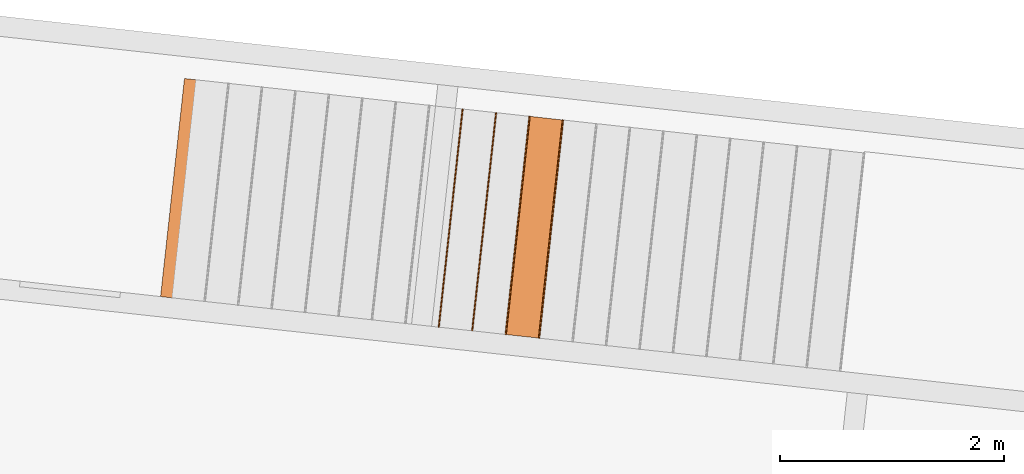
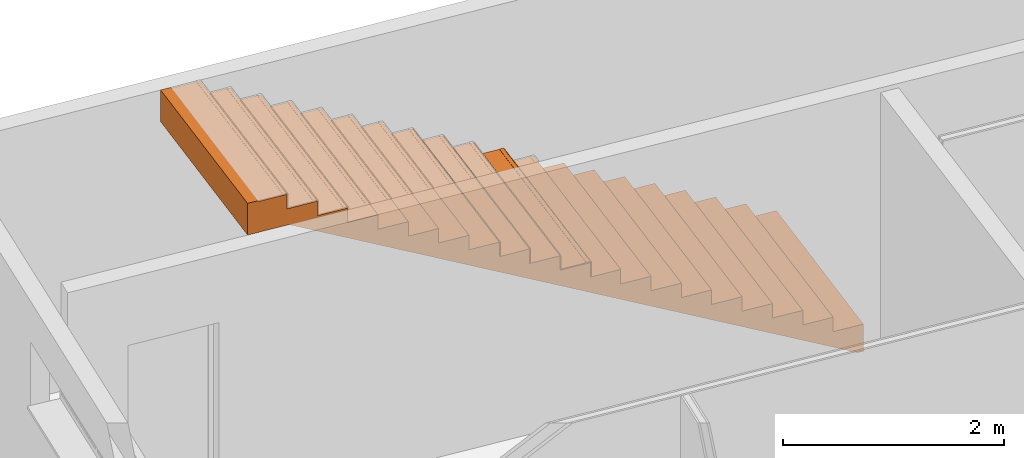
# One storey, part 75 of 79: 6 proxies, 1 element without a shape of its own.
"""IFC2X3 building model written with IfcOpenShell, lengths in metres."""

from ifc_helpers import new_model, entity, si_unit, converted_unit, derived_unit, money_unit, direction, frame, origin_with_axes, place, context, subcontext, project, spatial, faceted_brep, material, type_object, element, aggregate, save


model = new_model("IFC2X3")

# Units and contexts
model_context = context("Model", 3, precision=1e-05, world=origin_with_axes(), true_north=direction((0.0, 1.0)))
body_context = subcontext(model_context, "Body", "Model", "MODEL_VIEW")
ifc_project = project(units=[si_unit("LENGTHUNIT", "METRE"), si_unit("AREAUNIT", "SQUARE_METRE"), si_unit("VOLUMEUNIT", "CUBIC_METRE"), converted_unit("PLANEANGLEUNIT", "DEGREE", entity("IfcPlaneAngleMeasure", 0.0174532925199), si_unit("PLANEANGLEUNIT", "RADIAN"), dimensions=[0, 0, 0, 0, 0, 0, 0]), money_unit("CHF"), converted_unit("TIMEUNIT", "Year", entity("IfcTimeMeasure", 31556926.0), si_unit("TIMEUNIT", "SECOND"), dimensions=[0, 0, 1, 0, 0, 0, 0]), si_unit("MASSUNIT", "GRAM", prefix="KILO"), si_unit("THERMODYNAMICTEMPERATUREUNIT", "DEGREE_CELSIUS"), si_unit("LUMINOUSINTENSITYUNIT", "LUMEN"), si_unit("ENERGYUNIT", "JOULE", prefix="MEGA"), derived_unit("THERMALCONDUCTANCEUNIT", [(si_unit("POWERUNIT", "WATT"), 1), (si_unit("LENGTHUNIT", "METRE"), -1), (si_unit("THERMODYNAMICTEMPERATUREUNIT", "KELVIN"), -1)]), derived_unit("SPECIFICHEATCAPACITYUNIT", [(si_unit("ENERGYUNIT", "JOULE"), 1), (si_unit("MASSUNIT", "GRAM", prefix="KILO"), -1), (si_unit("THERMODYNAMICTEMPERATUREUNIT", "KELVIN"), -1)]), derived_unit("MASSDENSITYUNIT", [(si_unit("MASSUNIT", "GRAM", prefix="KILO"), 1), (si_unit("VOLUMEUNIT", "CUBIC_METRE"), -1)])], contexts=[model_context])

# Site, building, storey
site_placement = place(None, frame((0.0, 0.0, 0.0), z_axis=(0.0, 0.0, 1.0), x_axis=(-0.177771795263, -0.984071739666, 0.0)))
site = spatial("IfcSite", under=ifc_project, at=site_placement, Name="Site", CompositionType="ELEMENT")
building_placement = place(site_placement, origin_with_axes())
building = spatial("IfcBuilding", under=site, at=building_placement, Name="Bâtiment", CompositionType="ELEMENT")
storey_placement = place(building_placement, origin_with_axes())
storey = spatial("IfcBuildingStorey", under=building, at=storey_placement, Name="RDC", CompositionType="ELEMENT", Elevation=0.0)

# Proxies
building_element_proxy_type_1 = type_object("IfcBuildingElementProxyType", Name="Type d'escalier", PredefinedType="NOTDEFINED")
proxy_1_placement = place(storey_placement, origin_with_axes())
proxy_1 = element("IfcBuildingElementProxy", 1, at=proxy_1_placement, inside=storey, type_object=building_element_proxy_type_1, Name="ESC-001")
ifc_material_1 = material(Name="_BA banché")
building_element_proxy_type_2 = type_object("IfcBuildingElementProxyType", Name="IfcBuildingElementProxy", PredefinedType="NOTDEFINED")
proxy_2_placement = place(proxy_1_placement, frame((98.6612976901, -150.999113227, 0.0), z_axis=(0.0, 0.0, 1.0), x_axis=(-0.975946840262, -0.218008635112, 0.0)))
proxy_2 = element("IfcBuildingElementProxy", 2, at=proxy_2_placement, type_object=building_element_proxy_type_2, material=ifc_material_1, Name="VOLEE-002", context=body_context, shape_type="Brep", body=[
    faceted_brep([(1.79938320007, 5.50282550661, 3.19), (1.79938320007, 5.50282550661, 3.03), (1.7544993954, 5.20620210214, 3.03), (1.7544993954, 5.20620210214, 2.87), (1.7096155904, 4.90957869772, 2.87), (1.7096155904, 4.90957869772, 2.71), (1.66473178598, 4.61295529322, 2.71), (1.66473178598, 4.61295529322, 2.55), (1.61984798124, 4.31633188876, 2.55), (1.61984798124, 4.31633188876, 2.39), (1.57496417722, 4.01970848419, 2.39), (1.57496417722, 4.01970848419, 2.23), (1.53008037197, 3.72308507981, 2.23), (1.53008037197, 3.72308507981, 2.07), (1.48519656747, 3.42646167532, 2.07), (1.48519656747, 3.42646167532, 1.91), (1.44031276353, 3.12983827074, 1.91), (1.44031276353, 3.12983827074, 1.75), (1.39542895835, 2.83321486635, 1.75), (1.39542895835, 2.83321486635, 1.59), (1.35054515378, 2.53659146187, 1.59), (1.35054515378, 2.53659146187, 1.43), (1.30566134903, 2.23996805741, 1.43), (1.30566134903, 2.23996805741, 1.27), (1.26077754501, 1.94334465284, 1.27), (1.26077754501, 1.94334465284, 1.11), (1.21589373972, 1.64672124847, 1.11), (1.21589373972, 1.64672124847, 0.95), (1.17100993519, 1.35009784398, 0.95), (1.17100993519, 1.35009784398, 0.79), (1.12612613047, 1.05347443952, 0.79), (1.12612613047, 1.05347443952, 0.63), (1.08124232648, 0.756851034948, 0.63), (1.08124232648, 0.756851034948, 0.47), (1.03635852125, 0.460227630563, 0.47), (1.03635852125, 0.460227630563, 0.31), (0.991474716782, 0.163604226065, 0.31), (0.991474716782, 0.163604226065, 0.15), (0.946590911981, -0.133019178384, 0.15), (0.946590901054, -0.13301917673, -0.15), (0.955006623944, -0.0774022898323, -0.15), (0.956300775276, -0.0688496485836, -0.145386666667), (0.960041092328, -0.044131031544, -0.132053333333), (0.967521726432, 0.00530620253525, -0.105386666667), (0.975002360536, 0.0547434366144, -0.07872), (0.978742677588, 0.079462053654, -0.0653866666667), (0.989963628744, 0.153617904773, -0.0253866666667), (1.0011845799, 0.227773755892, 0.0146133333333), (1.00492489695, 0.252492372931, 0.0279466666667), (1.01240553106, 0.30192960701, 0.0546133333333), (1.01988616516, 0.35136684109, 0.08128), (1.02362648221, 0.376085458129, 0.0946133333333), (1.03484743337, 0.450241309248, 0.134613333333), (1.04606838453, 0.524397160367, 0.174613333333), (1.05728933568, 0.598553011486, 0.214613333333), (1.06851028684, 0.672708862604, 0.254613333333), (1.07973123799, 0.746864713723, 0.294613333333), (1.09095218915, 0.821020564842, 0.334613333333), (1.0946925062, 0.845739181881, 0.347946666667), (1.10217314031, 0.895176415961, 0.374613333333), (1.10965377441, 0.94461365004, 0.40128), (1.11339409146, 0.969332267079, 0.414613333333), (1.12461504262, 1.0434881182, 0.454613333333), (1.13583600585, 1.11764396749, 0.494613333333), (1.13957632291, 1.14236258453, 0.507946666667), (1.14705695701, 1.19179981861, 0.534613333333), (1.15453759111, 1.24123705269, 0.56128), (1.15827790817, 1.26595566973, 0.574613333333), (1.16949884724, 1.34011152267, 0.614613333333), (1.1807197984, 1.41426737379, 0.654613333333), (1.19194074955, 1.48842322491, 0.694613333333), (1.20316170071, 1.56257907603, 0.734613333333), (1.21438265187, 1.63673492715, 0.774613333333), (1.22560360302, 1.71089077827, 0.814613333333), (1.22934392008, 1.73560939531, 0.827946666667), (1.23682455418, 1.78504662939, 0.854613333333), (1.24430518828, 1.83448386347, 0.88128), (1.24804550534, 1.8592024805, 0.894613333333), (1.25926645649, 1.93335833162, 0.934613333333), (1.27048740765, 2.00751418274, 0.974613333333), (1.2742277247, 2.03223279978, 0.987946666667), (1.2817083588, 2.08167003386, 1.01461333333), (1.28918899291, 2.13110726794, 1.04128), (1.29292930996, 2.15582588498, 1.05461333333), (1.30415026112, 2.2299817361, 1.09461333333), (1.31537122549, 2.30413758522, 1.13461333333), (1.31911154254, 2.32885620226, 1.14794666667), (1.32659217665, 2.37829343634, 1.17461333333), (1.33407281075, 2.42773067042, 1.20128), (1.3378131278, 2.45244928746, 1.21461333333), (1.34903406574, 2.52660514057, 1.25461333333), (1.3602550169, 2.60076099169, 1.29461333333), (1.36399533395, 2.62547960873, 1.30794666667), (1.37147596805, 2.67491684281, 1.33461333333), (1.37895660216, 2.72435407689, 1.36128), (1.38269691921, 2.74907269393, 1.37461333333), (1.39391787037, 2.82322854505, 1.41461333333), (1.40513882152, 2.89738439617, 1.45461333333), (1.41635977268, 2.97154024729, 1.49461333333), (1.42758072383, 3.04569609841, 1.53461333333), (1.43880167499, 3.11985194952, 1.57461333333), (1.45002262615, 3.19400780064, 1.61461333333), (1.4612435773, 3.26816365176, 1.65461333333), (1.47246452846, 3.34231950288, 1.69461333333), (1.48368547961, 3.416475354, 1.73461333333), (1.49490644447, 3.49063120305, 1.77461333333), (1.50612739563, 3.56478705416, 1.81461333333), (1.51734834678, 3.63894290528, 1.85461333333), (1.52856928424, 3.71309875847, 1.89461333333), (1.53979023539, 3.78725460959, 1.93461333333), (1.55101118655, 3.86141046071, 1.97461333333), (1.56223213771, 3.93556631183, 2.01461333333), (1.57345308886, 4.00972216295, 2.05461333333), (1.58467404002, 4.08387801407, 2.09461333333), (1.58841435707, 4.10859663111, 2.10794666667), (1.59589499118, 4.15803386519, 2.13461333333), (1.60337562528, 4.20747109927, 2.16128), (1.60711594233, 4.23218971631, 2.17461333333), (1.61833689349, 4.30634556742, 2.21461333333), (1.62955785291, 4.38050141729, 2.25461333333), (1.64077880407, 4.45465726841, 2.29461333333), (1.65199975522, 4.52881311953, 2.33461333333), (1.66322069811, 4.6029689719, 2.37461333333), (1.67444164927, 4.67712482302, 2.41461333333), (1.67818196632, 4.70184344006, 2.42794666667), (1.68566260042, 4.75128067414, 2.45461333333), (1.69314323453, 4.80071790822, 2.48128), (1.69688355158, 4.82543652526, 2.49461333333), (1.70810450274, 4.89959237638, 2.53461333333), (1.71932545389, 4.97374822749, 2.57461333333), (1.73054640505, 5.04790407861, 2.61461333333), (1.74176735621, 5.12205992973, 2.65461333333), (1.75298830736, 5.19621578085, 2.69461333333), (1.76420925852, 5.27037163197, 2.73461333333), (1.76794957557, 5.29509024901, 2.74794666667), (1.77543020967, 5.34452748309, 2.77461333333), (1.78291084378, 5.39396471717, 2.80128), (1.78665116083, 5.41868333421, 2.81461333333), (1.79657796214, 5.48428654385, 2.85), (1.85771718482, 5.88833705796, 2.85), (1.85771718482, 5.88833705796, 3.2), (1.84275591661, 5.7894625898, 3.2), (1.84275591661, 5.7894625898, 3.19), (-0.134520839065, 5.79545572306, 3.19), (-0.134520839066, 5.79545572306, 3.03), (-0.179486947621, 5.49884477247, 3.03), (-0.179486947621, 5.49884477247, 2.87), (-0.224453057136, 5.20223382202, 2.87), (-0.224453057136, 5.20223382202, 2.71), (-0.269419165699, 4.90562287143, 2.71), (-0.269419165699, 4.90562287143, 2.55), (-0.314385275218, 4.60901192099, 2.55), (-0.314385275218, 4.60901192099, 2.39), (-0.359351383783, 4.3124009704, 2.39), (-0.359351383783, 4.3124009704, 2.23), (-0.404317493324, 4.01579001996, 2.23), (-0.404317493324, 4.01579001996, 2.07), (-0.44928360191, 3.71917906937, 2.07), (-0.44928360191, 3.71917906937, 1.91), (-0.494249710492, 3.42256811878, 1.91), (-0.494249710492, 3.42256811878, 1.75), (-0.539215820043, 3.12595716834, 1.75), (-0.539215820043, 3.12595716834, 1.59), (-0.584181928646, 2.82934621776, 1.59), (-0.584181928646, 2.82934621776, 1.43), (-0.629148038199, 2.53273526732, 1.43), (-0.629148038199, 2.53273526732, 1.27), (-0.674114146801, 2.23612431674, 1.27), (-0.674114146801, 2.23612431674, 1.11), (-0.719080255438, 1.93951336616, 1.11), (-0.719080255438, 1.93951336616, 0.95), (-0.764046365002, 1.64290241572, 0.95), (-0.764046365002, 1.64290241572, 0.79), (-0.809012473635, 1.34629146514, 0.79), (-0.809012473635, 1.34629146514, 0.63), (-0.853978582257, 1.04968051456, 0.63), (-0.853978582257, 1.04968051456, 0.47), (-0.89894469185, 0.753069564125, 0.47), (-0.89894469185, 0.753069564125, 0.31), (-0.943910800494, 0.456458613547, 0.31), (-0.943910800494, 0.456458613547, 0.15), (-0.98887691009, 0.159847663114, 0.15), (-0.988876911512, 0.159847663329, -0.15), (-0.980445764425, 0.215462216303, -0.15), (-0.97914924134, 0.224014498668, -0.145386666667), (-0.975402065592, 0.248732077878, -0.132053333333), (-0.967907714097, 0.298167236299, -0.105386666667), (-0.960413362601, 0.347602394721, -0.07872), (-0.956666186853, 0.372319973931, -0.0653866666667), (-0.945424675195, 0.446472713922, -0.0253866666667), (-0.934183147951, 0.520625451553, 0.0146133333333), (-0.930435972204, 0.545343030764, 0.0279466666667), (-0.922941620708, 0.594778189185, 0.0546133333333), (-0.915447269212, 0.644213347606, 0.08128), (-0.911700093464, 0.668930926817, 0.0946133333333), (-0.90045856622, 0.743083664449, 0.134613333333), (-0.889217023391, 0.817236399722, 0.174613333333), (-0.877975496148, 0.891389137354, 0.214613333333), (-0.866733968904, 0.965541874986, 0.254613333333), (-0.855492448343, 1.03969461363, 0.294613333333), (-0.844250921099, 1.11384735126, 0.334613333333), (-0.840503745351, 1.13856493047, 0.347946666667), (-0.833009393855, 1.18800008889, 0.374613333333), (-0.82551504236, 1.23743524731, 0.40128), (-0.821767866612, 1.26215282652, 0.414613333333), (-0.810526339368, 1.33630556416, 0.454613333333), (-0.799284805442, 1.41045830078, 0.494613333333), (-0.795537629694, 1.43517587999, 0.507946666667), (-0.788043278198, 1.48461103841, 0.534613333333), (-0.780548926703, 1.53404619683, 0.56128), (-0.776801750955, 1.55876377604, 0.574613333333), (-0.765560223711, 1.63291651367, 0.614613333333), (-0.754318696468, 1.7070692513, 0.654613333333), (-0.743077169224, 1.78122198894, 0.694613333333), (-0.73183564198, 1.85537472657, 0.734613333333), (-0.720594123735, 1.92952746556, 0.774613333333), (-0.709352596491, 2.00368020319, 0.814613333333), (-0.705605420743, 2.0283977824, 0.827946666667), (-0.698111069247, 2.07783294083, 0.854613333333), (-0.690616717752, 2.12726809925, 0.88128), (-0.686869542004, 2.15198567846, 0.894613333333), (-0.67562801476, 2.22613841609, 0.934613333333), (-0.664386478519, 2.30029115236, 0.974613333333), (-0.660639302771, 2.32500873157, 0.987946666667), (-0.653144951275, 2.37444388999, 1.01461333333), (-0.645650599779, 2.42387904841, 1.04128), (-0.641903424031, 2.44859662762, 1.05461333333), (-0.630661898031, 2.52274936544, 1.09461333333), (-0.619420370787, 2.59690210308, 1.13461333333), (-0.615673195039, 2.62161968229, 1.14794666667), (-0.608178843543, 2.67105484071, 1.17461333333), (-0.600684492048, 2.72048999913, 1.20128), (-0.5969373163, 2.74520757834, 1.21461333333), (-0.585695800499, 2.8193603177, 1.25461333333), (-0.574454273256, 2.89351305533, 1.29461333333), (-0.570707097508, 2.91823063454, 1.30794666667), (-0.563212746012, 2.96766579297, 1.33461333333), (-0.555718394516, 3.01710095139, 1.36128), (-0.551971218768, 3.0418185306, 1.37461333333), (-0.540729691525, 3.11597126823, 1.41461333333), (-0.529488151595, 3.19012400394, 1.45461333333), (-0.518246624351, 3.26427674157, 1.49461333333), (-0.507005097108, 3.33842947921, 1.53461333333), (-0.495763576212, 3.4125822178, 1.57461333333), (-0.484522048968, 3.48673495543, 1.61461333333), (-0.473280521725, 3.56088769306, 1.65461333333), (-0.462038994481, 3.63504043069, 1.69461333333), (-0.450797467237, 3.70919316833, 1.73461333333), (-0.439555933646, 3.783345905, 1.77461333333), (-0.428314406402, 3.85749864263, 1.81461333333), (-0.417072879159, 3.93165138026, 1.85461333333), (-0.4058313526, 4.005804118, 1.89461333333), (-0.394589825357, 4.07995685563, 1.93461333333), (-0.383348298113, 4.15410959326, 1.97461333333), (-0.372106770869, 4.22826233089, 2.01461333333), (-0.360865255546, 4.30241507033, 2.05461333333), (-0.349623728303, 4.37656780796, 2.09461333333), (-0.345876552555, 4.40128538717, 2.10794666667), (-0.338382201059, 4.45072054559, 2.13461333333), (-0.330887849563, 4.50015570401, 2.16128), (-0.327140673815, 4.52487328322, 2.17461333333), (-0.315899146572, 4.59902602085, 2.21461333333), (-0.304657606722, 4.67317875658, 2.25461333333), (-0.293416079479, 4.74733149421, 2.29461333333), (-0.282174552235, 4.82148423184, 2.33461333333), (-0.270933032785, 4.89563697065, 2.37461333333), (-0.259691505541, 4.96978970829, 2.41461333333), (-0.255944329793, 4.9945072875, 2.42794666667), (-0.248449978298, 5.04394244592, 2.45461333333), (-0.240955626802, 5.09337760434, 2.48128), (-0.237208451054, 5.11809518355, 2.49461333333), (-0.22596692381, 5.19224792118, 2.53461333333), (-0.214725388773, 5.26640065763, 2.57461333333), (-0.20348386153, 5.34055339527, 2.61461333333), (-0.192242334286, 5.4147061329, 2.65461333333), (-0.181000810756, 5.48885887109, 2.69461333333), (-0.169759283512, 5.56301160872, 2.73461333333), (-0.166012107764, 5.58772918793, 2.74794666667), (-0.158517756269, 5.63716434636, 2.77461333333), (-0.151023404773, 5.68659950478, 2.80128), (-0.147276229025, 5.71131708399, 2.81461333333), (-0.137331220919, 5.77691753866, 2.85), (-0.0910685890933, 6.08208077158, 2.85), (-0.0761073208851, 6.18095523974, 2.85), (-0.0761073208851, 6.18095523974, 3.2), (-0.0910685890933, 6.08208077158, 3.2), (-0.0910685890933, 6.08208077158, 3.19)], [[[0, 1, 2, 3, 4, 5, 6, 7, 8, 9, 10, 11, 12, 13, 14, 15, 16, 17, 18, 19, 20, 21, 22, 23, 24, 25, 26, 27, 28, 29, 30, 31, 32, 33, 34, 35, 36, 37, 38, 39, 40, 41, 42, 43, 44, 45, 46, 47, 48, 49, 50, 51, 52, 53, 54, 55, 56, 57, 58, 59, 60, 61, 62, 63, 64, 65, 66, 67, 68, 69, 70, 71, 72, 73, 74, 75, 76, 77, 78, 79, 80, 81, 82, 83, 84, 85, 86, 87, 88, 89, 90, 91, 92, 93, 94, 95, 96, 97, 98, 99, 100, 101, 102, 103, 104, 105, 106, 107, 108, 109, 110, 111, 112, 113, 114, 115, 116, 117, 118, 119, 120, 121, 122, 123, 124, 125, 126, 127, 128, 129, 130, 131, 132, 133, 134, 135, 136, 137, 138, 139, 140, 141, 142]], [[143, 144, 1, 0]], [[1, 144, 145, 2]], [[2, 145, 146, 3]], [[3, 146, 147, 4]], [[4, 147, 148, 5]], [[5, 148, 149, 6]], [[6, 149, 150, 7]], [[7, 150, 151, 8]], [[8, 151, 152, 9]], [[9, 152, 153, 10]], [[10, 153, 154, 11]], [[11, 154, 155, 12]], [[12, 155, 156, 13]], [[13, 156, 157, 14]], [[14, 157, 158, 15]], [[15, 158, 159, 16]], [[16, 159, 160, 17]], [[17, 160, 161, 18]], [[18, 161, 162, 19]], [[19, 162, 163, 20]], [[20, 163, 164, 21]], [[21, 164, 165, 22]], [[22, 165, 166, 23]], [[23, 166, 167, 24]], [[24, 167, 168, 25]], [[25, 168, 169, 26]], [[26, 169, 170, 27]], [[27, 170, 171, 28]], [[28, 171, 172, 29]], [[29, 172, 173, 30]], [[30, 173, 174, 31]], [[31, 174, 175, 32]], [[32, 175, 176, 33]], [[33, 176, 177, 34]], [[34, 177, 178, 35]], [[35, 178, 179, 36]], [[36, 179, 180, 37]], [[37, 180, 181, 38]], [[38, 181, 182, 39]], [[183, 40, 39, 182]], [[184, 41, 40, 183]], [[185, 42, 41, 184]], [[186, 43, 42, 185]], [[187, 44, 43, 186]], [[188, 45, 44, 187]], [[189, 46, 45, 188]], [[190, 47, 46, 189]], [[191, 48, 47, 190]], [[192, 49, 48, 191]], [[193, 50, 49, 192]], [[194, 51, 50, 193]], [[195, 52, 51, 194]], [[196, 53, 52, 195]], [[197, 54, 53, 196]], [[198, 55, 54, 197]], [[199, 56, 55, 198]], [[200, 57, 56, 199]], [[201, 58, 57, 200]], [[202, 59, 58, 201]], [[203, 60, 59, 202]], [[204, 61, 60, 203]], [[205, 62, 61, 204]], [[206, 63, 62, 205]], [[207, 64, 63, 206]], [[208, 65, 64, 207]], [[209, 66, 65, 208]], [[210, 67, 66, 209]], [[211, 68, 67, 210]], [[212, 69, 68, 211]], [[213, 70, 69, 212]], [[214, 71, 70, 213]], [[215, 72, 71, 214]], [[216, 73, 72, 215]], [[217, 74, 73, 216]], [[218, 75, 74, 217]], [[219, 76, 75, 218]], [[220, 77, 76, 219]], [[221, 78, 77, 220]], [[222, 79, 78, 221]], [[223, 80, 79, 222]], [[224, 81, 80, 223]], [[225, 82, 81, 224]], [[226, 83, 82, 225]], [[227, 84, 83, 226]], [[228, 85, 84, 227]], [[229, 86, 85, 228]], [[230, 87, 86, 229]], [[231, 88, 87, 230]], [[232, 89, 88, 231]], [[233, 90, 89, 232]], [[234, 91, 90, 233]], [[235, 92, 91, 234]], [[236, 93, 92, 235]], [[237, 94, 93, 236]], [[238, 95, 94, 237]], [[239, 96, 95, 238]], [[240, 97, 96, 239]], [[241, 98, 97, 240]], [[242, 99, 98, 241]], [[243, 100, 99, 242]], [[244, 101, 100, 243]], [[245, 102, 101, 244]], [[246, 103, 102, 245]], [[247, 104, 103, 246]], [[248, 105, 104, 247]], [[249, 106, 105, 248]], [[250, 107, 106, 249]], [[251, 108, 107, 250]], [[252, 109, 108, 251]], [[253, 110, 109, 252]], [[254, 111, 110, 253]], [[255, 112, 111, 254]], [[256, 113, 112, 255]], [[257, 114, 113, 256]], [[258, 115, 114, 257]], [[259, 116, 115, 258]], [[260, 117, 116, 259]], [[261, 118, 117, 260]], [[262, 119, 118, 261]], [[263, 120, 119, 262]], [[264, 121, 120, 263]], [[265, 122, 121, 264]], [[266, 123, 122, 265]], [[267, 124, 123, 266]], [[268, 125, 124, 267]], [[269, 126, 125, 268]], [[270, 127, 126, 269]], [[271, 128, 127, 270]], [[272, 129, 128, 271]], [[273, 130, 129, 272]], [[274, 131, 130, 273]], [[275, 132, 131, 274]], [[276, 133, 132, 275]], [[277, 134, 133, 276]], [[278, 135, 134, 277]], [[279, 136, 135, 278]], [[280, 137, 136, 279]], [[137, 280, 281, 138]], [[281, 282, 283, 139, 138]], [[140, 139, 283, 284]], [[141, 140, 284, 285]], [[285, 286, 142, 141]], [[142, 286, 143, 0]], [[286, 282, 281, 280, 279, 278, 277, 276, 275, 274, 273, 272, 271, 270, 269, 268, 267, 266, 265, 264, 263, 262, 261, 260, 259, 258, 257, 256, 255, 254, 253, 252, 251, 250, 249, 248, 247, 246, 245, 244, 243, 242, 241, 240, 239, 238, 237, 236, 235, 234, 233, 232, 231, 230, 229, 228, 227, 226, 225, 224, 223, 222, 221, 220, 219, 218, 217, 216, 215, 214, 213, 212, 211, 210, 209, 208, 207, 206, 205, 204, 203, 202, 201, 200, 199, 198, 197, 196, 195, 194, 193, 192, 191, 190, 189, 188, 187, 186, 185, 184, 183, 182, 181, 180, 179, 178, 177, 176, 175, 174, 173, 172, 171, 170, 169, 168, 167, 166, 165, 164, 163, 162, 161, 160, 159, 158, 157, 156, 155, 154, 153, 152, 151, 150, 149, 148, 147, 146, 145, 144, 143]], [[285, 284, 283, 282, 286]]]),
])
ifc_material_2 = material(Name="Bois - Massif 01")
proxy_3_placement = place(proxy_1_placement, frame((98.8490579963, -153.692576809, 1.59), z_axis=(0.0, 0.0, 1.0), x_axis=(0.997579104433, 0.0695408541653, 0.0)))
proxy_3 = element("IfcBuildingElementProxy", 3, at=proxy_3_placement, type_object=building_element_proxy_type_2, material=ifc_material_2, Name="C-MARCHE-010", context=body_context, shape_type="Brep", body=[
    faceted_brep([(1.00091565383, 0.0, 0.0), (-0.955838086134, 0.0, 0.0), (-0.955838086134, -0.00999999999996, 0.0), (1.00091287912, -0.00999999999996, 0.0), (1.00091565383, 0.0, -0.15), (-0.955838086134, 0.0, -0.15), (-0.955838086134, -0.00999999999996, -0.15), (1.00091287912, -0.00999999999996, -0.15)], [[[0, 1, 2, 3]], [[4, 5, 1, 0]], [[1, 5, 6, 2]], [[3, 2, 6, 7]], [[0, 3, 7, 4]], [[7, 6, 5, 4]]]),
])
proxy_4_placement = place(proxy_1_placement, frame((98.8699202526, -153.99185054, 1.75), z_axis=(0.0, 0.0, 1.0), x_axis=(0.997579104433, 0.0695408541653, 0.0)))
proxy_4 = element("IfcBuildingElementProxy", 4, at=proxy_4_placement, type_object=building_element_proxy_type_2, material=ifc_material_2, Name="C-MARCHE-011", context=body_context, shape_type="Brep", body=[
    faceted_brep([(1.00083241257, 0.0, 0.0), (-0.955838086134, 0.0, 0.0), (-0.955838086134, -0.00999999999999, 0.0), (1.00082963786, -0.00999999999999, 0.0), (1.00083241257, 0.0, -0.15), (-0.955838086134, 0.0, -0.15), (-0.955838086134, -0.00999999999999, -0.15), (1.00082963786, -0.00999999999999, -0.15)], [[[0, 1, 2, 3]], [[4, 5, 1, 0]], [[1, 5, 6, 2]], [[3, 2, 6, 7]], [[0, 3, 7, 4]], [[7, 6, 5, 4]]]),
])
proxy_5_placement = place(proxy_1_placement, frame((98.8907825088, -154.291124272, 1.91), z_axis=(0.0, 0.0, 1.0), x_axis=(0.997579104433, 0.0695408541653, 0.0)))
proxy_5 = element("IfcBuildingElementProxy", 5, at=proxy_5_placement, type_object=building_element_proxy_type_2, material=ifc_material_2, Name="C-MARCHE-012", context=body_context, shape_type="Brep", body=[
    faceted_brep([(1.00074917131, 0.0, 0.0), (-0.955838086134, 0.0, 0.0), (-0.955838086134, -0.01, 0.0), (1.0007463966, -0.01, 0.0), (1.00074917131, 0.0, -0.15), (-0.955838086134, 0.0, -0.15), (-0.955838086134, -0.01, -0.15), (1.0007463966, -0.01, -0.15)], [[[0, 1, 2, 3]], [[4, 5, 1, 0]], [[1, 5, 6, 2]], [[3, 2, 6, 7]], [[0, 3, 7, 4]], [[7, 6, 5, 4]]]),
])
proxy_6_placement = place(proxy_1_placement, frame((98.9116447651, -154.590398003, 2.07), z_axis=(0.0, 0.0, 1.0), x_axis=(0.997579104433, 0.0695408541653, 0.0)))
proxy_6 = element("IfcBuildingElementProxy", 6, at=proxy_6_placement, type_object=building_element_proxy_type_2, material=ifc_material_2, Name="C-MARCHE-013", context=body_context, shape_type="Brep", body=[
    faceted_brep([(1.00066593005, 0.0, 0.0), (-0.955838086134, 0.0, 0.0), (-0.955838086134, -0.00999999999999, 0.0), (1.00066315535, -0.00999999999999, 0.0), (1.00066593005, 0.0, -0.15), (-0.955838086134, 0.0, -0.15), (-0.955838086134, -0.00999999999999, -0.15), (1.00066315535, -0.00999999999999, -0.15)], [[[0, 1, 2, 3]], [[4, 5, 1, 0]], [[1, 5, 6, 2]], [[3, 2, 6, 7]], [[0, 3, 7, 4]], [[7, 6, 5, 4]]]),
])
proxy_7_placement = place(proxy_1_placement, frame((98.8490579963, -153.692576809, 1.6), z_axis=(0.0, 0.0, 1.0), x_axis=(0.997579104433, 0.0695408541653, 0.0)))
proxy_7 = element("IfcBuildingElementProxy", 7, at=proxy_7_placement, type_object=building_element_proxy_type_2, material=ifc_material_2, Name="MARCHE-010", context=body_context, shape_type="Brep", body=[
    faceted_brep([(1.00091223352, -0.012326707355, -0.00589109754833), (1.00091149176, -0.015, -0.00401923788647), (1.00091017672, -0.0197393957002, -0.00180922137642), (1.00090877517, -0.02479055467, -0.00045576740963), (1.0009073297, -0.03, 0.0), (1.00082963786, -0.31000000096, 0.0), (1.00082963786, -0.31000000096, -0.01), (1.00091565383, 0.0, -0.01), (-0.955838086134, -0.012326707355, -0.00589109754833), (-0.955838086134, -0.015, -0.00401923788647), (-0.955838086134, -0.0197393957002, -0.00180922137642), (-0.955838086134, -0.02479055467, -0.00045576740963), (-0.955838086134, -0.03, 0.0), (-0.955838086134, -0.310000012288, 0.0), (-0.955838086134, -0.310000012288, -0.01), (-0.955838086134, 0.0, -0.01)], [[[0, 1, 2, 3, 4, 5, 6, 7]], [[0, 8, 9, 1]], [[1, 9, 10, 2]], [[2, 10, 11, 3]], [[3, 11, 12, 4]], [[5, 4, 12, 13]], [[13, 14, 6, 5]], [[7, 6, 14, 15]], [[7, 15, 8, 0]], [[12, 11, 10, 9, 8, 15, 14, 13]]]),
    faceted_brep([(-0.955838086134, -0.05, 0.0), (1.00091565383, -0.05, 0.0), (1.00091565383, -0.05, 0.003), (-0.955838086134, -0.05, 0.003), (-0.955838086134, -0.015, 0.0), (1.00091565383, -0.015, 0.0), (1.00091565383, -0.012395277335, -0.00022788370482), (1.00091565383, -0.00986969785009, -0.00090461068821), (1.00091565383, -0.00749999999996, -0.00200961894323), (1.00091565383, -0.00535818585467, -0.00350933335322), (1.00091565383, -0.00350933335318, -0.0053581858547), (1.00091565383, -0.00200961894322, -0.0075), (1.00091565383, -0.000904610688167, -0.00986969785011), (1.00091565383, -0.00022788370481, -0.012395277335), (1.00091565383, 0.0, -0.015), (1.00091565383, -0.00022788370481, -0.017604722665), (1.00091565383, -0.000904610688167, -0.0201303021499), (1.00091565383, -0.00200961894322, -0.0225), (1.00091565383, -0.00350933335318, -0.0246418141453), (1.00091565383, -0.00535818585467, -0.0264906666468), (1.00091565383, -0.00749999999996, -0.0279903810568), (1.00091565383, -0.00986969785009, -0.0290953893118), (1.00091565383, -0.012395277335, -0.0297721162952), (1.00091565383, -0.015, -0.03), (1.00091565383, -0.015, -0.033), (1.00091565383, -0.011874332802, -0.0327265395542), (1.00091565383, -0.00884363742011, -0.0319144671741), (1.00091565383, -0.00599999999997, -0.0305884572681), (1.00091565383, -0.00342982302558, -0.0287887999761), (1.00091565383, -0.00121120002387, -0.0265701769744), (1.00091565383, 0.000588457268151, -0.024), (1.00091565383, 0.00191446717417, -0.0211563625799), (1.00091565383, 0.00272653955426, -0.018125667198), (1.00091565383, 0.00300000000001, -0.015), (1.00091565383, 0.00272653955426, -0.011874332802), (1.00091565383, 0.00191446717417, -0.00884363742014), (1.00091565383, 0.000588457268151, -0.006), (1.00091565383, -0.00121120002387, -0.00342982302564), (1.00091565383, -0.00342982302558, -0.00121120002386), (1.00091565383, -0.00599999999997, 0.00058845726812), (1.00091565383, -0.00884363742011, 0.00191446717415), (1.00091565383, -0.011874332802, 0.00272653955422), (1.00091565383, -0.015, 0.003), (-0.955838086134, -0.015, 0.003), (-0.955838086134, -0.011874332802, 0.00272653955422), (-0.955838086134, -0.00884363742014, 0.00191446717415), (-0.955838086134, -0.006, 0.00058845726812), (-0.955838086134, -0.00342982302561, -0.00121120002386), (-0.955838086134, -0.00121120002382, -0.00342982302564), (-0.955838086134, 0.000588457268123, -0.006), (-0.955838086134, 0.00191446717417, -0.00884363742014), (-0.955838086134, 0.00272653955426, -0.011874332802), (-0.955838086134, 0.00300000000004, -0.015), (-0.955838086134, 0.00272653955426, -0.018125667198), (-0.955838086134, 0.00191446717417, -0.0211563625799), (-0.955838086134, 0.000588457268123, -0.024), (-0.955838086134, -0.00121120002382, -0.0265701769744), (-0.955838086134, -0.00342982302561, -0.0287887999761), (-0.955838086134, -0.006, -0.0305884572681), (-0.955838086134, -0.00884363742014, -0.0319144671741), (-0.955838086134, -0.011874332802, -0.0327265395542), (-0.955838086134, -0.015, -0.033), (-0.955838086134, -0.015, -0.03), (-0.955838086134, -0.012395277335, -0.0297721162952), (-0.955838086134, -0.00986969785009, -0.0290953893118), (-0.955838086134, -0.00749999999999, -0.0279903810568), (-0.955838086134, -0.00535818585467, -0.0264906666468), (-0.955838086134, -0.00350933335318, -0.0246418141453), (-0.955838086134, -0.00200961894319, -0.0225), (-0.955838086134, -0.000904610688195, -0.0201303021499), (-0.955838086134, -0.000227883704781, -0.017604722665), (-0.955838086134, 0.0, -0.015), (-0.955838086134, -0.000227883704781, -0.012395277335), (-0.955838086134, -0.000904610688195, -0.00986969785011), (-0.955838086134, -0.00200961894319, -0.0075), (-0.955838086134, -0.00350933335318, -0.0053581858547), (-0.955838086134, -0.00535818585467, -0.00350933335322), (-0.955838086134, -0.00749999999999, -0.00200961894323), (-0.955838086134, -0.00986969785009, -0.00090461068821), (-0.955838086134, -0.012395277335, -0.00022788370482)], [[[0, 1, 2, 3]], [[4, 5, 1, 0]], [[1, 5, 6, 7, 8, 9, 10, 11, 12, 13, 14, 15, 16, 17, 18, 19, 20, 21, 22, 23, 24, 25, 26, 27, 28, 29, 30, 31, 32, 33, 34, 35, 36, 37, 38, 39, 40, 41, 42, 2]], [[3, 2, 42, 43]], [[0, 3, 43, 44, 45, 46, 47, 48, 49, 50, 51, 52, 53, 54, 55, 56, 57, 58, 59, 60, 61, 62, 63, 64, 65, 66, 67, 68, 69, 70, 71, 72, 73, 74, 75, 76, 77, 78, 79, 4]], [[79, 6, 5, 4]], [[78, 7, 6, 79]], [[77, 8, 7, 78]], [[76, 9, 8, 77]], [[75, 10, 9, 76]], [[74, 11, 10, 75]], [[73, 12, 11, 74]], [[72, 13, 12, 73]], [[71, 14, 13, 72]], [[70, 15, 14, 71]], [[69, 16, 15, 70]], [[68, 17, 16, 69]], [[67, 18, 17, 68]], [[66, 19, 18, 67]], [[65, 20, 19, 66]], [[64, 21, 20, 65]], [[63, 22, 21, 64]], [[62, 23, 22, 63]], [[61, 24, 23, 62]], [[60, 25, 24, 61]], [[59, 26, 25, 60]], [[58, 27, 26, 59]], [[57, 28, 27, 58]], [[56, 29, 28, 57]], [[55, 30, 29, 56]], [[54, 31, 30, 55]], [[53, 32, 31, 54]], [[52, 33, 32, 53]], [[51, 34, 33, 52]], [[50, 35, 34, 51]], [[49, 36, 35, 50]], [[48, 37, 36, 49]], [[47, 38, 37, 48]], [[46, 39, 38, 47]], [[45, 40, 39, 46]], [[44, 41, 40, 45]], [[43, 42, 41, 44]]]),
])
aggregate(proxy_1, [proxy_2, proxy_3, proxy_4, proxy_5, proxy_6, proxy_7])

save(model, "model.ifc")
